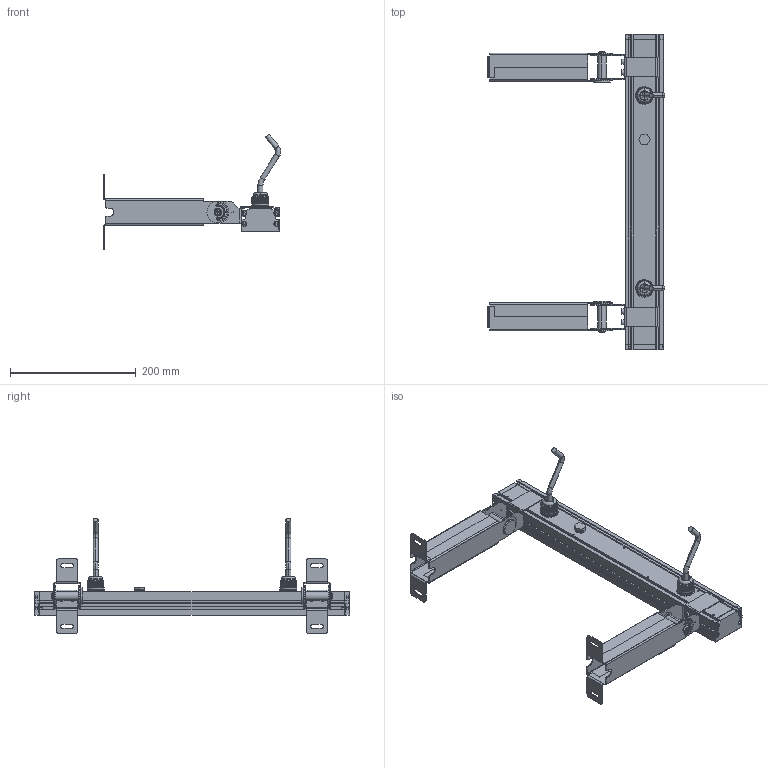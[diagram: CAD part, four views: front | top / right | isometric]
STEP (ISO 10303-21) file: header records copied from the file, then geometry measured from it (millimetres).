
FILE_DESCRIPTION((''),'2;1');
FILE_NAME('A6LE0658_ASM','2023-02-04T',('Administrator'),(''),'CREO PARAMETRIC BY PTC INC, 2015200','CREO PARAMETRIC BY PTC INC, 2015200','');
FILE_SCHEMA(('CONFIG_CONTROL_DESIGN'));
Products named in the file (26): 6LE; L-RUBBER_35_1_ANY; 6LE-ZY1; PCB-LED_36_1_ANY; 6LA-1-A24--YITITOUJINGZHIJIA-11; A21; M3-22; 6LA-T1_ASM; 6LA-2-A24--YITITOUJINGZHIJIA-11; 6LA-T2_ASM; M3X6-YT_2; 6L-A1; 6L-A2; 6LK; 6LK-A; ___S_OF__S__37____X__2___B6KA12; SOCKET_HEAD_CAP_SCREW_ISO_ISO_4; HEXAGON_SOCKET_HEAD_CAP_-144696; 6L-A_ASM; 6LK-B; 6LE-B_ASM; M4-6; PG_13_5_5__1; PRODUCT_88784_ANY_1_1; 6LE-06; A6LE0658_ASM
Assembly tree (53 placements, depth 3):
  A6LE0658_ASM
    6LE
    L-RUBBER_35_1_ANY  x2
    6LE-ZY1  x2
    PCB-LED_36_1_ANY
    6LA-T1_ASM
      6LA-1-A24--YITITOUJINGZHIJIA-11
      A21  x3
      M3-22  x3
    6LA-T2_ASM
      6LA-2-A24--YITITOUJINGZHIJIA-11
      A21  x3
      M3-22  x3
    M3X6-YT_2
    6L-A_ASM
      6L-A1
      6L-A2
      6LK
      6LK-A
      ___S_OF__S__37____X__2___B6KA12
      SOCKET_HEAD_CAP_SCREW_ISO_ISO_4
      HEXAGON_SOCKET_HEAD_CAP_-144696  x2
    6LE-B_ASM
      6L-A1
      6L-A2
      6LK
      6LK-B
      HEXAGON_SOCKET_HEAD_CAP_-144696  x2
      ___S_OF__S__37____X__2___B6KA12
      SOCKET_HEAD_CAP_SCREW_ISO_ISO_4
    M4-6  x8
    PG_13_5_5__1  x2
    PRODUCT_88784_ANY_1_1
    6LE-06
Bounding box: 282.52 x 501 x 183.92 mm (x, y, z)
Volume: 775124.1 mm3; surface area: 526605.7 mm2
Topology: 51 solids, 51 shells, 7305 faces, 20668 edges, 13715 vertices
Faces by surface type: plane 5175, cylinder 856, extrusion 480, cone 316, bspline 228, torus 126, revolution 84, sphere 40
Entity records: 173092 total; most frequent: CARTESIAN_POINT 51724, ORIENTED_EDGE 26980, DIRECTION 22563, EDGE_CURVE 13490, VERTEX_POINT 8996, VECTOR 8865, LINE 8625, AXIS2_PLACEMENT_3D 6807
